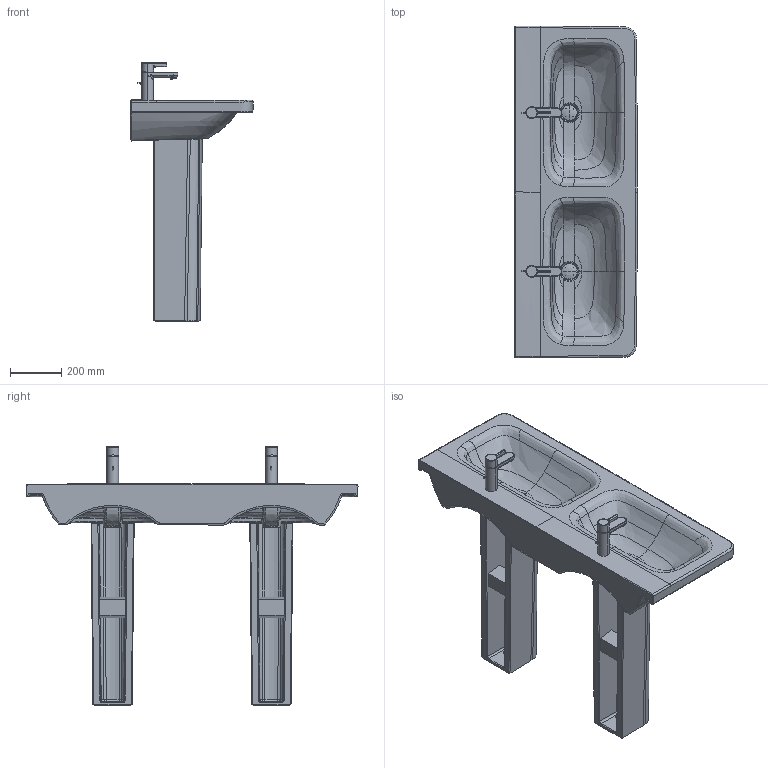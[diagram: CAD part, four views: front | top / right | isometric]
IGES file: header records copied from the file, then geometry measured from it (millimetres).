
Global section: file name: No Iges File Name specified; native system: Autodesk Inventor 2011; preprocessor: AutoDesk Inventor Iges Exporter R2011; author: Administrator; date: 20150527.151610; units: millimetre
Bounding box: 480.03 x 1300.5 x 1014.39 mm (x, y, z)
Volume: 53812438.5 mm3; surface area: 3647133.9 mm2
Topology: 15 solids, 15 shells, 1052 faces, 2600 edges, 1560 vertices
Faces by surface type: bspline 582, plane 176, revolution 130, cylinder 112, torus 30, sphere 16, cone 6
